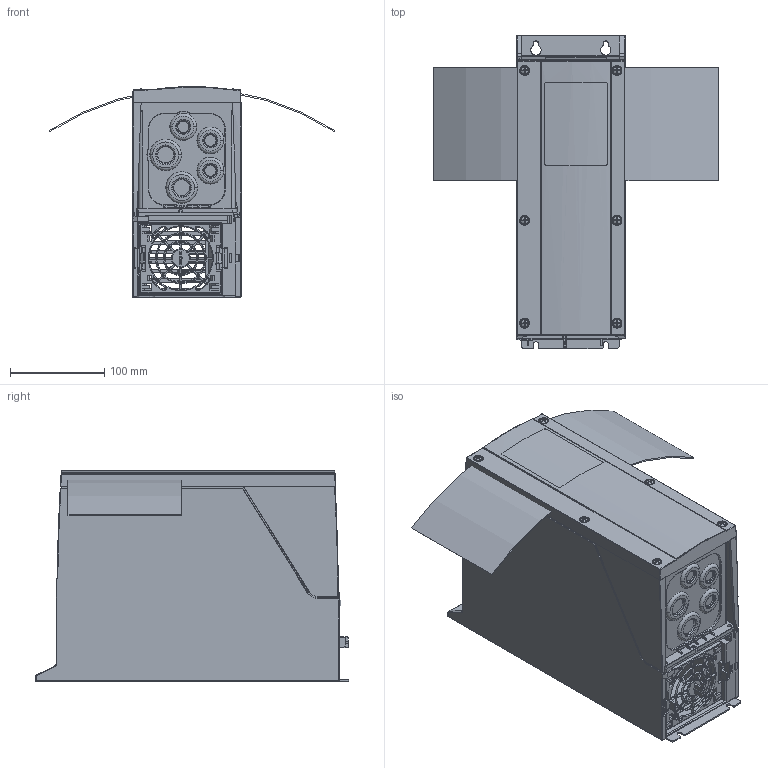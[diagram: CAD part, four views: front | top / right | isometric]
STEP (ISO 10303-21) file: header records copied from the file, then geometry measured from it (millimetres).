
FILE_DESCRIPTION((''),'2;1');
FILE_NAME('PRT0001','2011-10-31T',('U255134'),('Danfoss Power Electronics'),'PRO/ENGINEER BY PARAMETRIC TECHNOLOGY CORPORATION, 2010370','PRO/ENGINEER BY PARAMETRIC TECHNOLOGY CORPORATION, 2010370','');
FILE_SCHEMA(('CONFIG_CONTROL_DESIGN', 'GEOMETRIC_VALIDATION_PROPERTIES_MIM'));
Products named in the file (1): PRT0001
Bounding box: 303.25 x 332 x 223.48 mm (x, y, z)
Volume: 4986734.2 mm3; surface area: 759507.4 mm2
Topology: 1 solids, 49 shells, 3916 faces, 10853 edges, 6852 vertices
Faces by surface type: plane 1954, cylinder 853, bspline 421, cone 271, torus 213, sphere 196, extrusion 8
Entity records: 182251 total; most frequent: CARTESIAN_POINT 67621, ORIENTED_EDGE 21364, DIRECTION 17140, EDGE_CURVE 10734, VERTEX_POINT 6852, VECTOR 5974, LINE 5966, AXIS2_PLACEMENT_3D 5583
